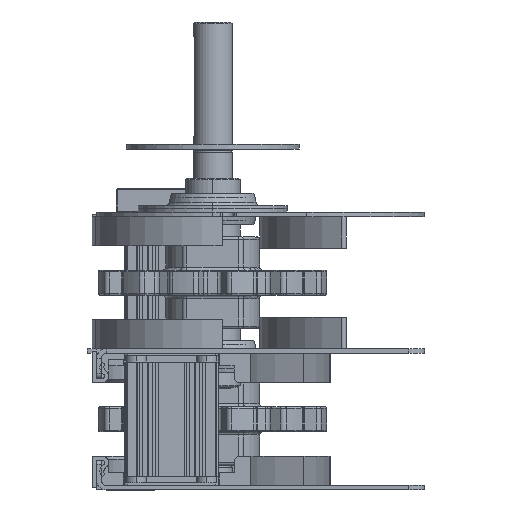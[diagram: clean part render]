
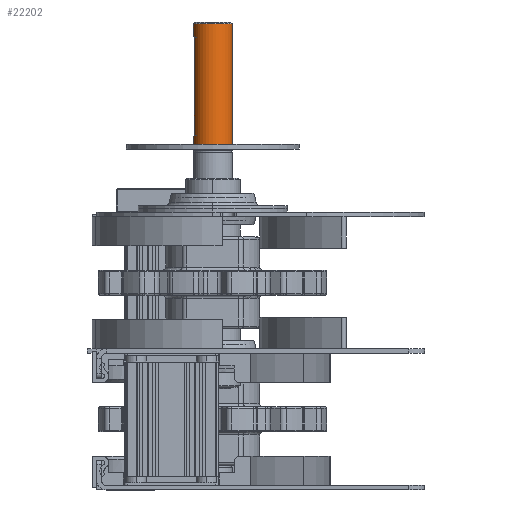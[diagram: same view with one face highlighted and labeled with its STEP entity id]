
A CAD part, left-side view. The second image highlights one B-rep face of the part: STEP entity #22202.
In plain terms, the highlighted cylindrical face has radius 12.5 mm (diameter 25 mm), a partial arc.
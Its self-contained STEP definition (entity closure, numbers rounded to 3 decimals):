
#994 = VERTEX_POINT ( 'NONE', #7869 ) ;
#1241 = VERTEX_POINT ( 'NONE', #59439 ) ;
#1264 = VERTEX_POINT ( 'NONE', #59432 ) ;
#1266 = VERTEX_POINT ( 'NONE', #59425 ) ;
#1443 = VERTEX_POINT ( 'NONE', #59204 ) ;
#1488 = VERTEX_POINT ( 'NONE', #59511 ) ;
#1673 = LINE ( 'NONE', #12141, #1761 ) ;
#1759 = LINE ( 'NONE', #12179, #1766 ) ;
#1761 = VECTOR ( 'NONE', #12158, 1000. ) ;
#1762 = LINE ( 'NONE', #12178, #1768 ) ;
#1764 = CIRCLE ( 'NONE', #34503, 12.5 ) ;
#1765 = CIRCLE ( 'NONE', #34505, 12.5 ) ;
#1766 = VECTOR ( 'NONE', #12161, 1000. ) ;
#1768 = VECTOR ( 'NONE', #12183, 1000. ) ;
#1776 = LINE ( 'NONE', #12194, #1778 ) ;
#1778 = VECTOR ( 'NONE', #12195, 1000. ) ;
#5831 = AXIS2_PLACEMENT_3D ( 'NONE', #30404, #30401, #30392 ) ;
#6361 = EDGE_LOOP ( 'NONE', ( #40876, #40972, #41115, #42530, #40839, #67577, #41792, #41011 ) ) ;
#7869 = CARTESIAN_POINT ( 'NONE',  ( -147.855, 73.26, 203.5 ) ) ;
#12131 = CARTESIAN_POINT ( 'NONE',  ( -148.118, 73.26, 133.5 ) ) ;
#12136 = CARTESIAN_POINT ( 'NONE',  ( -151.855, 72.603, 199.5 ) ) ;
#12137 = CARTESIAN_POINT ( 'NONE',  ( -151.855, 72.603, 199.766 ) ) ;
#12141 = CARTESIAN_POINT ( 'NONE',  ( -151.855, 72.603, 273.349 ) ) ;
#12142 = CARTESIAN_POINT ( 'NONE',  ( -151.829, 72.612, 200.028 ) ) ;
#12143 = CARTESIAN_POINT ( 'NONE',  ( -151.726, 72.646, 200.541 ) ) ;
#12144 = CARTESIAN_POINT ( 'NONE',  ( -151.648, 72.671, 200.796 ) ) ;
#12145 = CARTESIAN_POINT ( 'NONE',  ( -151.447, 72.734, 201.28 ) ) ;
#12146 = CARTESIAN_POINT ( 'NONE',  ( -151.324, 72.77, 201.509 ) ) ;
#12147 = CARTESIAN_POINT ( 'NONE',  ( -151.033, 72.851, 201.943 ) ) ;
#12148 = CARTESIAN_POINT ( 'NONE',  ( -150.866, 72.894, 202.146 ) ) ;
#12149 = CARTESIAN_POINT ( 'NONE',  ( -150.499, 72.979, 202.513 ) ) ;
#12150 = CARTESIAN_POINT ( 'NONE',  ( -150.299, 73.021, 202.678 ) ) ;
#12151 = CARTESIAN_POINT ( 'NONE',  ( -149.862, 73.1, 202.97 ) ) ;
#12152 = CARTESIAN_POINT ( 'NONE',  ( -149.632, 73.136, 203.093 ) ) ;
#12153 = CARTESIAN_POINT ( 'NONE',  ( -149.151, 73.195, 203.293 ) ) ;
#12154 = CARTESIAN_POINT ( 'NONE',  ( -148.896, 73.22, 203.371 ) ) ;
#12155 = CARTESIAN_POINT ( 'NONE',  ( -148.379, 73.252, 203.474 ) ) ;
#12156 = CARTESIAN_POINT ( 'NONE',  ( -148.118, 73.26, 203.5 ) ) ;
#12157 = CARTESIAN_POINT ( 'NONE',  ( -147.855, 73.26, 203.5 ) ) ;
#12158 = DIRECTION ( 'NONE',  ( 0., 0., 1. ) ) ;
#12159 = CARTESIAN_POINT ( 'NONE',  ( -147.855, 73.26, 133.5 ) ) ;
#12161 = DIRECTION ( 'NONE',  ( 0., 0., 1. ) ) ;
#12162 = CARTESIAN_POINT ( 'NONE',  ( -148.385, 73.252, 133.527 ) ) ;
#12163 = CARTESIAN_POINT ( 'NONE',  ( -148.899, 73.219, 133.63 ) ) ;
#12164 = CARTESIAN_POINT ( 'NONE',  ( -149.149, 73.196, 133.706 ) ) ;
#12165 = CARTESIAN_POINT ( 'NONE',  ( -149.635, 73.136, 133.908 ) ) ;
#12166 = CARTESIAN_POINT ( 'NONE',  ( -149.866, 73.1, 134.032 ) ) ;
#12167 = CARTESIAN_POINT ( 'NONE',  ( -150.297, 73.022, 134.321 ) ) ;
#12168 = CARTESIAN_POINT ( 'NONE',  ( -150.5, 72.979, 134.488 ) ) ;
#12169 = CARTESIAN_POINT ( 'NONE',  ( -150.868, 72.893, 134.856 ) ) ;
#12170 = CARTESIAN_POINT ( 'NONE',  ( -151.033, 72.851, 135.056 ) ) ;
#12171 = CARTESIAN_POINT ( 'NONE',  ( -151.322, 72.771, 135.488 ) ) ;
#12172 = CARTESIAN_POINT ( 'NONE',  ( -151.448, 72.734, 135.722 ) ) ;
#12173 = CARTESIAN_POINT ( 'NONE',  ( -151.648, 72.672, 136.203 ) ) ;
#12174 = CARTESIAN_POINT ( 'NONE',  ( -151.724, 72.647, 136.452 ) ) ;
#12175 = CARTESIAN_POINT ( 'NONE',  ( -151.828, 72.612, 136.968 ) ) ;
#12176 = CARTESIAN_POINT ( 'NONE',  ( -151.855, 72.603, 137.234 ) ) ;
#12177 = CARTESIAN_POINT ( 'NONE',  ( -151.855, 72.603, 137.5 ) ) ;
#12178 = CARTESIAN_POINT ( 'NONE',  ( -147.855, 48.26, 273.349 ) ) ;
#12179 = CARTESIAN_POINT ( 'NONE',  ( -147.855, 73.26, 273.349 ) ) ;
#12180 = CARTESIAN_POINT ( 'NONE',  ( -147.855, 60.76, 208.5 ) ) ;
#12181 = DIRECTION ( 'NONE',  ( 0., 0., -1. ) ) ;
#12182 = DIRECTION ( 'NONE',  ( 0., -1., 0. ) ) ;
#12183 = DIRECTION ( 'NONE',  ( 0., 0., 1. ) ) ;
#12190 = CARTESIAN_POINT ( 'NONE',  ( -147.855, 60.76, 127.5 ) ) ;
#12191 = DIRECTION ( 'NONE',  ( 0., 0., -1. ) ) ;
#12192 = DIRECTION ( 'NONE',  ( 0., 1., 0. ) ) ;
#12194 = CARTESIAN_POINT ( 'NONE',  ( -147.855, 73.26, 273.349 ) ) ;
#12195 = DIRECTION ( 'NONE',  ( 0., 0., 1. ) ) ;
#12884 = B_SPLINE_CURVE_WITH_KNOTS ( 'NONE', 3,
 ( #12136, #12137, #12142, #12143, #12144, #12145, #12146, #12147, #12148, #12149, #12150, #12151, #12152, #12153, #12154, #12155, #12156, #12157 ),
 .UNSPECIFIED., .F., .F.,
 ( 4, 2, 2, 2, 2, 2, 2, 2, 4 ),
 ( 0., 0.001, 0.002, 0.002, 0.003, 0.004, 0.005, 0.006, 0.006 ),
 .UNSPECIFIED. ) ;
#12926 = B_SPLINE_CURVE_WITH_KNOTS ( 'NONE', 3,
 ( #12159, #12131, #12162, #12163, #12164, #12165, #12166, #12167, #12168, #12169, #12170, #12171, #12172, #12173, #12174, #12175, #12176, #12177 ),
 .UNSPECIFIED., .F., .F.,
 ( 4, 2, 2, 2, 2, 2, 2, 2, 4 ),
 ( 0.006, 0.007, 0.008, 0.009, 0.009, 0.01, 0.011, 0.012, 0.013 ),
 .UNSPECIFIED. ) ;
#19116 = VERTEX_POINT ( 'NONE', #39211 ) ;
#22202 = ADVANCED_FACE ( 'NONE', ( #31524 ), #31528, .T. ) ;
#30392 = DIRECTION ( 'NONE',  ( 0., -1., 0. ) ) ;
#30401 = DIRECTION ( 'NONE',  ( 0., 0., 1. ) ) ;
#30404 = CARTESIAN_POINT ( 'NONE',  ( -147.855, 60.76, 273.349 ) ) ;
#31524 = FACE_OUTER_BOUND ( 'NONE', #6361, .T. ) ;
#31528 = CYLINDRICAL_SURFACE ( 'NONE', #5831, 12.5 ) ;
#34503 = AXIS2_PLACEMENT_3D ( 'NONE', #12180, #12181, #12182 ) ;
#34505 = AXIS2_PLACEMENT_3D ( 'NONE', #12190, #12191, #12192 ) ;
#39211 = CARTESIAN_POINT ( 'NONE',  ( -147.855, 73.26, 127.5 ) ) ;
#40839 = ORIENTED_EDGE ( 'NONE', *, *, #64927, .F. ) ;
#40876 = ORIENTED_EDGE ( 'NONE', *, *, #64944, .F. ) ;
#40972 = ORIENTED_EDGE ( 'NONE', *, *, #64933, .F. ) ;
#41011 = ORIENTED_EDGE ( 'NONE', *, *, #64923, .F. ) ;
#41115 = ORIENTED_EDGE ( 'NONE', *, *, #64929, .T. ) ;
#41792 = ORIENTED_EDGE ( 'NONE', *, *, #64918, .F. ) ;
#42013 = VERTEX_POINT ( 'NONE', #49129 ) ;
#42530 = ORIENTED_EDGE ( 'NONE', *, *, #64925, .T. ) ;
#49129 = CARTESIAN_POINT ( 'NONE',  ( -151.855, 72.603, 199.5 ) ) ;
#59204 = CARTESIAN_POINT ( 'NONE',  ( -147.855, 48.26, 208.5 ) ) ;
#59425 = CARTESIAN_POINT ( 'NONE',  ( -147.855, 73.26, 208.5 ) ) ;
#59432 = CARTESIAN_POINT ( 'NONE',  ( -151.855, 72.603, 137.5 ) ) ;
#59439 = CARTESIAN_POINT ( 'NONE',  ( -147.855, 73.26, 133.5 ) ) ;
#59511 = CARTESIAN_POINT ( 'NONE',  ( -147.855, 48.26, 127.5 ) ) ;
#64916 = EDGE_CURVE ( 'NONE', #42013, #994, #12884, .T. ) ;
#64918 = EDGE_CURVE ( 'NONE', #1264, #42013, #1673, .T. ) ;
#64923 = EDGE_CURVE ( 'NONE', #1241, #1264, #12926, .T. ) ;
#64925 = EDGE_CURVE ( 'NONE', #1443, #1266, #1764, .T. ) ;
#64927 = EDGE_CURVE ( 'NONE', #994, #1266, #1759, .T. ) ;
#64929 = EDGE_CURVE ( 'NONE', #1488, #1443, #1762, .T. ) ;
#64933 = EDGE_CURVE ( 'NONE', #1488, #19116, #1765, .T. ) ;
#64944 = EDGE_CURVE ( 'NONE', #19116, #1241, #1776, .T. ) ;
#67577 = ORIENTED_EDGE ( 'NONE', *, *, #64916, .F. ) ;
